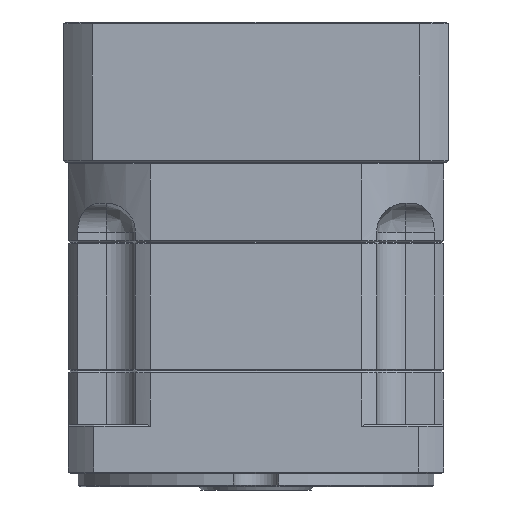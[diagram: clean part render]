
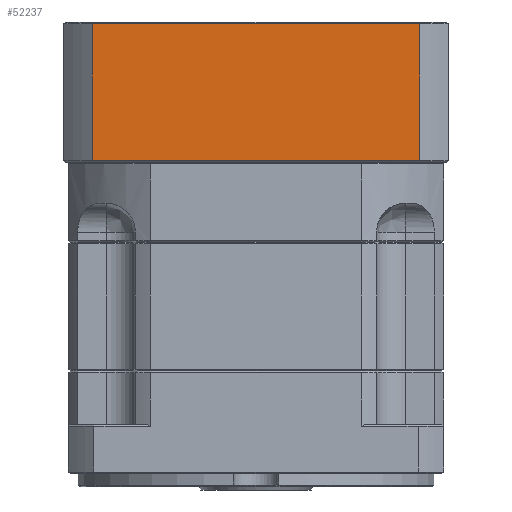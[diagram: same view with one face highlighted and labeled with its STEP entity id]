
A CAD part, front view. The second image highlights one B-rep face of the part: STEP entity #52237.
In plain terms, the highlighted planar face has unit normal (0, -1, 0).
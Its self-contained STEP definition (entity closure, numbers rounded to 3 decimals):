
#3504 = EDGE_CURVE ( 'NONE', #55566, #10300, #60110, .T. ) ;
#4168 = DIRECTION ( 'NONE',  ( -1., 0., 0. ) ) ;
#6683 = EDGE_CURVE ( 'NONE', #108882, #106403, #51630, .T. ) ;
#9781 = CARTESIAN_POINT ( 'NONE',  ( 128.096, 31.323, 30.503 ) ) ;
#10300 = VERTEX_POINT ( 'NONE', #92033 ) ;
#12872 = PLANE ( 'NONE',  #107229 ) ;
#18723 = ORIENTED_EDGE ( 'NONE', *, *, #34570, .F. ) ;
#24834 = VECTOR ( 'NONE', #55561, 1000. ) ;
#32575 = VECTOR ( 'NONE', #65265, 1000. ) ;
#34570 = EDGE_CURVE ( 'NONE', #106403, #55566, #35393, .T. ) ;
#35393 = LINE ( 'NONE', #74319, #32575 ) ;
#36172 = VECTOR ( 'NONE', #51677, 1000. ) ;
#46556 = CARTESIAN_POINT ( 'NONE',  ( 18.844, 31.323, 73.003 ) ) ;
#51630 = LINE ( 'NONE', #46556, #24834 ) ;
#51677 = DIRECTION ( 'NONE',  ( 0., 0., -1. ) ) ;
#51814 = FACE_OUTER_BOUND ( 'NONE', #65529, .T. ) ;
#52237 = ADVANCED_FACE ( 'NONE', ( #51814 ), #12872, .F. ) ;
#55561 = DIRECTION ( 'NONE',  ( 0., 0., 1. ) ) ;
#55566 = VERTEX_POINT ( 'NONE', #73613 ) ;
#58125 = DIRECTION ( 'NONE',  ( 0., 1., 0. ) ) ;
#60110 = LINE ( 'NONE', #87441, #36172 ) ;
#63625 = DIRECTION ( 'NONE',  ( 1., 0., 0. ) ) ;
#65265 = DIRECTION ( 'NONE',  ( 1., 0., 0. ) ) ;
#65529 = EDGE_LOOP ( 'NONE', ( #86630, #115161, #18723, #92239 ) ) ;
#69695 = CARTESIAN_POINT ( 'NONE',  ( 18.844, 31.323, 30.503 ) ) ;
#73352 = EDGE_CURVE ( 'NONE', #108882, #10300, #87928, .T. ) ;
#73613 = CARTESIAN_POINT ( 'NONE',  ( 119.348, 31.323, 72.503 ) ) ;
#74319 = CARTESIAN_POINT ( 'NONE',  ( 128.096, 31.323, 72.503 ) ) ;
#86630 = ORIENTED_EDGE ( 'NONE', *, *, #73352, .T. ) ;
#87441 = CARTESIAN_POINT ( 'NONE',  ( 119.348, 31.323, -191.392 ) ) ;
#87928 = LINE ( 'NONE', #9781, #109058 ) ;
#92033 = CARTESIAN_POINT ( 'NONE',  ( 119.348, 31.323, 30.503 ) ) ;
#92239 = ORIENTED_EDGE ( 'NONE', *, *, #6683, .F. ) ;
#95911 = CARTESIAN_POINT ( 'NONE',  ( 18.844, 31.323, 72.503 ) ) ;
#106403 = VERTEX_POINT ( 'NONE', #95911 ) ;
#107229 = AXIS2_PLACEMENT_3D ( 'NONE', #111980, #58125, #4168 ) ;
#108882 = VERTEX_POINT ( 'NONE', #69695 ) ;
#109058 = VECTOR ( 'NONE', #63625, 1000. ) ;
#111980 = CARTESIAN_POINT ( 'NONE',  ( 128.096, 31.323, 73.003 ) ) ;
#115161 = ORIENTED_EDGE ( 'NONE', *, *, #3504, .F. ) ;
